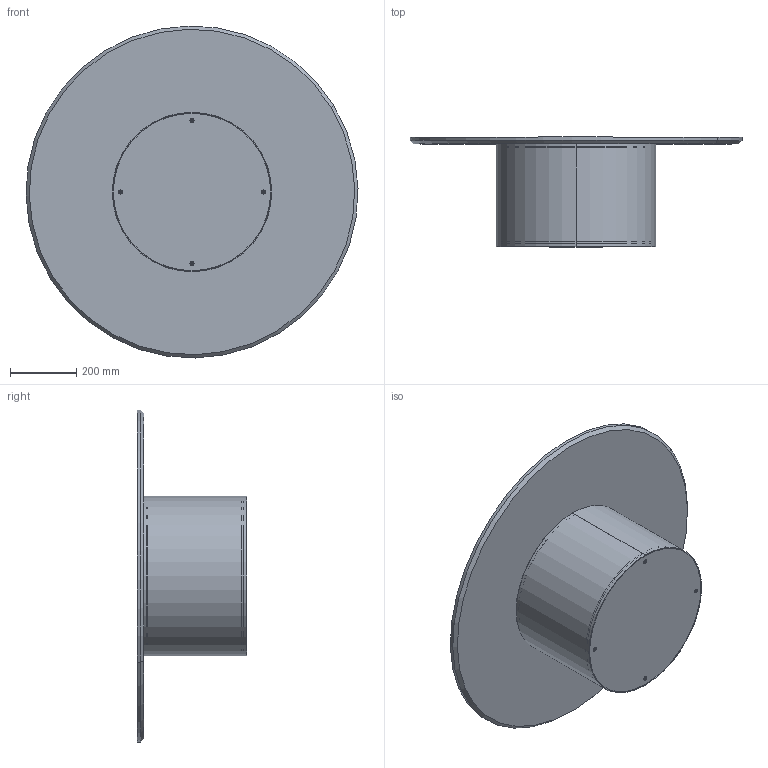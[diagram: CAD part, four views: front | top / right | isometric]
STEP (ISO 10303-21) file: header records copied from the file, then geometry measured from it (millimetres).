
FILE_DESCRIPTION (( 'STEP AP203' ), '1' );
FILE_NAME ('CL03M.STEP', '2024-08-06T10:13:30', ( '' ), ( '' ), 'SwSTEP 2.0', 'SolidWorks 2022', '' );
FILE_SCHEMA (( 'CONFIG_CONTROL_DESIGN' ));
Length unit declared in the file: millimetre
Products named in the file (12): M8xXXmm_M8x24mm; M6xXXmm_HEX_M6x20mm HEX; P0000003-00-STAFFA DI FISSAGGIO DIAMETRO 250_P0000003-250mm normale; M8xXXmm_M8x20mm; CLB1000000_03-00-Zavorra cilindro low D.48cm; CLB1000000_01-00-Supporto piano fusto D.48cm; CLB1000000_04-00-Supporto Zavorra fusto D.48cm; M0X-00- D. piani marmo_D.1000; CLB1000000-00-CILINDRO LOW D.48cm BASE GREZZA; M0XMXX-00-Piani Rotondi in marmo_D.100 CON PIASTRA; CL03M; CLB1000000_02-00-Fusto centrale d.48cm
Assembly tree (16 placements, depth 3):
  CL03M
    CLB1000000-00-CILINDRO LOW D.48cm BASE GREZZA
      CLB1000000_02-00-Fusto centrale d.48cm
      CLB1000000_03-00-Zavorra cilindro low D.48cm
      CLB1000000_01-00-Supporto piano fusto D.48cm
      CLB1000000_04-00-Supporto Zavorra fusto D.48cm
      M6xXXmm_HEX_M6x20mm HEX  x4
    M0XMXX-00-Piani Rotondi in marmo_D.100 CON PIASTRA
      M0X-00- D. piani marmo_D.1000
      P0000003-00-STAFFA DI FISSAGGIO DIAMETRO 250_P0000003-250mm normale
      M8xXXmm_M8x24mm
      M8xXXmm_M8x20mm  x3
Bounding box: 999.75 x 330 x 999.75 mm (x, y, z)
Volume: 19068107.6 mm3; surface area: 3310289.2 mm2
Topology: 16 solids, 16 shells, 381 faces, 831 edges, 470 vertices
Faces by surface type: plane 166, cylinder 97, cone 92, torus 24, bspline 2
Entity records: 7739 total; most frequent: CARTESIAN_POINT 1502, DIRECTION 1089, ORIENTED_EDGE 938, EDGE_CURVE 469, AXIS2_PLACEMENT_3D 450, VERTEX_POINT 285, EDGE_LOOP 254, CIRCLE 218
